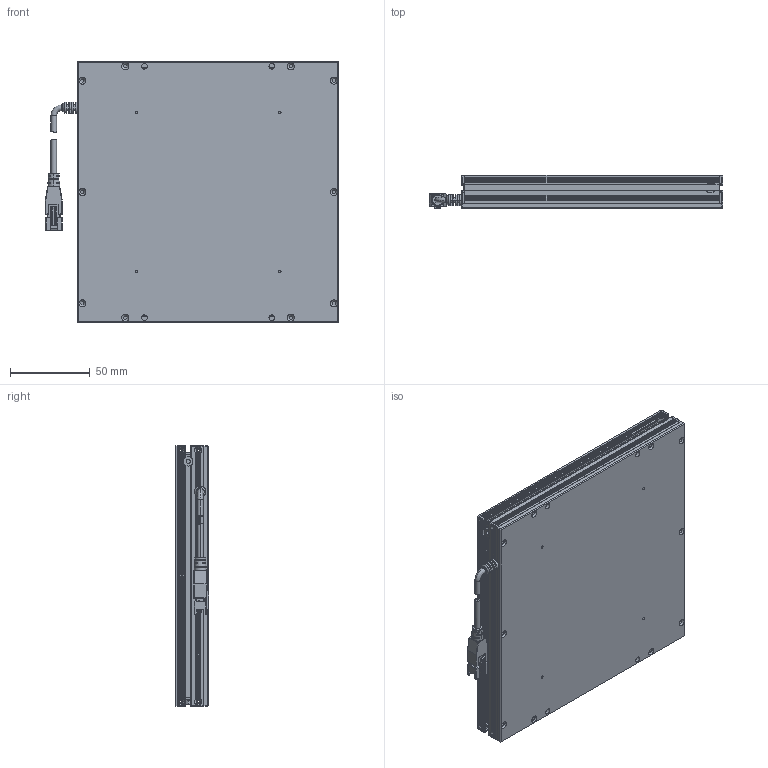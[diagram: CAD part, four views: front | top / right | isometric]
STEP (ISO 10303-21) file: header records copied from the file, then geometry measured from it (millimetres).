
FILE_DESCRIPTION (( 'STEP AP203' ), '1' );
FILE_NAME ('2FL150150.STEP', '2022-02-25T04:23:49', ( '' ), ( '' ), 'SwSTEP 2.0', 'SolidWorks 2014', '' );
FILE_SCHEMA (( 'CONFIG_CONTROL_DESIGN' ));
Length unit declared in the file: millimetre
Products named in the file (1): 2FL150150
Bounding box: 184.25 x 21.15 x 164 mm (x, y, z)
Surface area: 111518.8 mm2 (no closed solid volume)
Topology: 0 solids, 12 shells, 791 faces, 2438 edges, 1596 vertices
Faces by surface type: plane 381, cylinder 337, cone 56, bspline 15, torus 2
Entity records: 28405 total; most frequent: CARTESIAN_POINT 7113, ORIENTED_EDGE 4395, DIRECTION 4265, EDGE_CURVE 2432, VERTEX_POINT 1596, VECTOR 1441, LINE 1441, AXIS2_PLACEMENT_3D 1412
